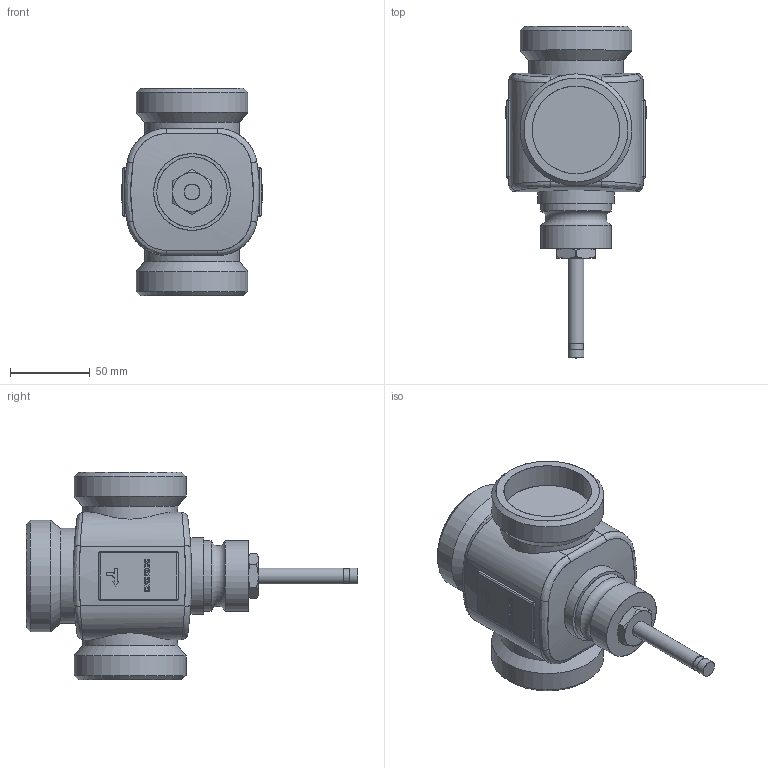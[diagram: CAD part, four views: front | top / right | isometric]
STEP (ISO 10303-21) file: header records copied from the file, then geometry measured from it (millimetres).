
FILE_DESCRIPTION(/* description */ (''),/* implementation_level */ '2;1');
FILE_NAME(/* name */ 'VXG41 DN40.stp',/* time_stamp */ '2013-10-01T14:22:54+02:00',/* author */ (''),/* organization */ (''),/* preprocessor_version */ 'ST-DEVELOPER v11',/* originating_system */ 'SIEMENS UGS NX 6.0',/* authorisation */ '');
FILE_SCHEMA (('AUTOMOTIVE_DESIGN { 1 0 10303 214 1 1 1 1 }'));
Length unit declared in the file: millimetre
Products named in the file (1): model1
Bounding box: 87.67 x 207.5 x 130 mm (x, y, z)
Surface area: 78115.8 mm2 (no closed solid volume)
Topology: 0 solids, 386 shells, 386 faces, 2121 edges, 2088 vertices
Faces by surface type: plane 225, cylinder 132, bspline 12, cone 8, sphere 8, torus 1
Full cylindrical faces by diameter (mm): 8.932 x1, 10 x3, 44 x2, 47.927 x1, 54.799 x3, 59.45 x3, 70 x3
Entity records: 28341 total; most frequent: CARTESIAN_POINT 10439, DIRECTION 2574, ORIENTED_EDGE 2088, VERTEX_POINT 2088, EDGE_CURVE 2088, LINE 1160, VECTOR 1160, AXIS2_PLACEMENT_3D 707
